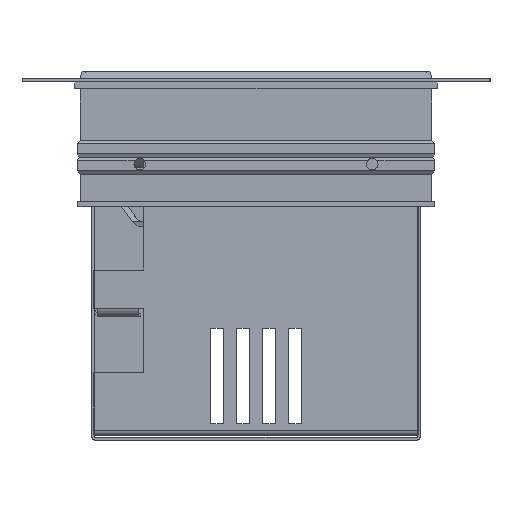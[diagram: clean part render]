
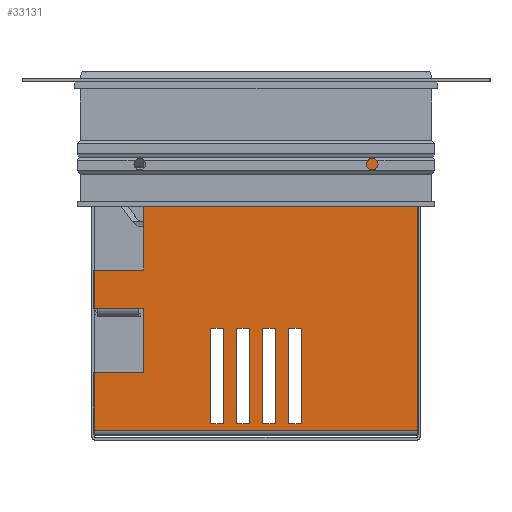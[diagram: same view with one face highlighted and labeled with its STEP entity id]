
A CAD part, left-side view. The second image highlights one B-rep face of the part: STEP entity #33131.
In plain terms, the highlighted planar face has unit normal (-1, 0, 0).
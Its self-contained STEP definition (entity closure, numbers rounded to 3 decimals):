
#370=FACE_BOUND('',#6066,.T.);
#371=FACE_BOUND('',#6067,.T.);
#372=FACE_BOUND('',#6068,.T.);
#373=FACE_BOUND('',#6069,.T.);
#2252=PLANE('',#36460);
#4023=FACE_OUTER_BOUND('',#6065,.T.);
#6065=EDGE_LOOP('',(#30408,#30409,#30410,#30411,#30412,#30413,#30414,#30415,
#30416,#30417,#30418,#30419));
#6066=EDGE_LOOP('',(#30420,#30421,#30422,#30423));
#6067=EDGE_LOOP('',(#30424,#30425,#30426,#30427));
#6068=EDGE_LOOP('',(#30428,#30429,#30430,#30431));
#6069=EDGE_LOOP('',(#30432,#30433,#30434,#30435));
#10133=LINE('',#63001,#12863);
#10135=LINE('',#63007,#12865);
#10136=LINE('',#63009,#12866);
#10137=LINE('',#63011,#12867);
#10138=LINE('',#63013,#12868);
#10139=LINE('',#63015,#12869);
#10140=LINE('',#63017,#12870);
#10141=LINE('',#63019,#12871);
#10142=LINE('',#63021,#12872);
#10143=LINE('',#63023,#12873);
#10144=LINE('',#63025,#12874);
#10145=LINE('',#63026,#12875);
#10146=LINE('',#63029,#12876);
#10147=LINE('',#63031,#12877);
#10148=LINE('',#63033,#12878);
#10149=LINE('',#63034,#12879);
#10150=LINE('',#63037,#12880);
#10151=LINE('',#63039,#12881);
#10152=LINE('',#63041,#12882);
#10153=LINE('',#63042,#12883);
#10154=LINE('',#63045,#12884);
#10155=LINE('',#63047,#12885);
#10156=LINE('',#63049,#12886);
#10157=LINE('',#63050,#12887);
#10158=LINE('',#63053,#12888);
#10159=LINE('',#63055,#12889);
#10160=LINE('',#63057,#12890);
#10161=LINE('',#63058,#12891);
#12863=VECTOR('',#45441,304.8);
#12865=VECTOR('',#45447,304.8);
#12866=VECTOR('',#45448,304.8);
#12867=VECTOR('',#45449,304.8);
#12868=VECTOR('',#45450,304.8);
#12869=VECTOR('',#45451,304.8);
#12870=VECTOR('',#45452,304.8);
#12871=VECTOR('',#45453,304.8);
#12872=VECTOR('',#45454,304.8);
#12873=VECTOR('',#45455,304.8);
#12874=VECTOR('',#45456,304.8);
#12875=VECTOR('',#45457,304.8);
#12876=VECTOR('',#45458,304.8);
#12877=VECTOR('',#45459,304.8);
#12878=VECTOR('',#45460,304.8);
#12879=VECTOR('',#45461,304.8);
#12880=VECTOR('',#45462,304.8);
#12881=VECTOR('',#45463,304.8);
#12882=VECTOR('',#45464,304.8);
#12883=VECTOR('',#45465,304.8);
#12884=VECTOR('',#45466,304.8);
#12885=VECTOR('',#45467,304.8);
#12886=VECTOR('',#45468,304.8);
#12887=VECTOR('',#45469,304.8);
#12888=VECTOR('',#45470,304.8);
#12889=VECTOR('',#45471,304.8);
#12890=VECTOR('',#45472,304.8);
#12891=VECTOR('',#45473,304.8);
#16072=VERTEX_POINT('',#62997);
#16074=VERTEX_POINT('',#63000);
#16076=VERTEX_POINT('',#63006);
#16077=VERTEX_POINT('',#63008);
#16078=VERTEX_POINT('',#63010);
#16079=VERTEX_POINT('',#63012);
#16080=VERTEX_POINT('',#63014);
#16081=VERTEX_POINT('',#63016);
#16082=VERTEX_POINT('',#63018);
#16083=VERTEX_POINT('',#63020);
#16084=VERTEX_POINT('',#63022);
#16085=VERTEX_POINT('',#63024);
#16086=VERTEX_POINT('',#63027);
#16087=VERTEX_POINT('',#63028);
#16088=VERTEX_POINT('',#63030);
#16089=VERTEX_POINT('',#63032);
#16090=VERTEX_POINT('',#63035);
#16091=VERTEX_POINT('',#63036);
#16092=VERTEX_POINT('',#63038);
#16093=VERTEX_POINT('',#63040);
#16094=VERTEX_POINT('',#63043);
#16095=VERTEX_POINT('',#63044);
#16096=VERTEX_POINT('',#63046);
#16097=VERTEX_POINT('',#63048);
#16098=VERTEX_POINT('',#63051);
#16099=VERTEX_POINT('',#63052);
#16100=VERTEX_POINT('',#63054);
#16101=VERTEX_POINT('',#63056);
#20874=EDGE_CURVE('',#16074,#16072,#10133,.T.);
#20877=EDGE_CURVE('',#16076,#16072,#10135,.T.);
#20878=EDGE_CURVE('',#16077,#16076,#10136,.T.);
#20879=EDGE_CURVE('',#16078,#16077,#10137,.T.);
#20880=EDGE_CURVE('',#16079,#16078,#10138,.T.);
#20881=EDGE_CURVE('',#16080,#16079,#10139,.T.);
#20882=EDGE_CURVE('',#16081,#16080,#10140,.T.);
#20883=EDGE_CURVE('',#16082,#16081,#10141,.T.);
#20884=EDGE_CURVE('',#16083,#16082,#10142,.T.);
#20885=EDGE_CURVE('',#16084,#16083,#10143,.T.);
#20886=EDGE_CURVE('',#16085,#16084,#10144,.T.);
#20887=EDGE_CURVE('',#16074,#16085,#10145,.T.);
#20888=EDGE_CURVE('',#16086,#16087,#10146,.T.);
#20889=EDGE_CURVE('',#16088,#16086,#10147,.T.);
#20890=EDGE_CURVE('',#16089,#16088,#10148,.T.);
#20891=EDGE_CURVE('',#16087,#16089,#10149,.T.);
#20892=EDGE_CURVE('',#16090,#16091,#10150,.T.);
#20893=EDGE_CURVE('',#16092,#16090,#10151,.T.);
#20894=EDGE_CURVE('',#16093,#16092,#10152,.T.);
#20895=EDGE_CURVE('',#16091,#16093,#10153,.T.);
#20896=EDGE_CURVE('',#16094,#16095,#10154,.T.);
#20897=EDGE_CURVE('',#16096,#16094,#10155,.T.);
#20898=EDGE_CURVE('',#16097,#16096,#10156,.T.);
#20899=EDGE_CURVE('',#16095,#16097,#10157,.T.);
#20900=EDGE_CURVE('',#16098,#16099,#10158,.T.);
#20901=EDGE_CURVE('',#16100,#16098,#10159,.T.);
#20902=EDGE_CURVE('',#16101,#16100,#10160,.T.);
#20903=EDGE_CURVE('',#16099,#16101,#10161,.T.);
#30408=ORIENTED_EDGE('',*,*,#20877,.F.);
#30409=ORIENTED_EDGE('',*,*,#20878,.F.);
#30410=ORIENTED_EDGE('',*,*,#20879,.F.);
#30411=ORIENTED_EDGE('',*,*,#20880,.F.);
#30412=ORIENTED_EDGE('',*,*,#20881,.F.);
#30413=ORIENTED_EDGE('',*,*,#20882,.F.);
#30414=ORIENTED_EDGE('',*,*,#20883,.F.);
#30415=ORIENTED_EDGE('',*,*,#20884,.F.);
#30416=ORIENTED_EDGE('',*,*,#20885,.F.);
#30417=ORIENTED_EDGE('',*,*,#20886,.F.);
#30418=ORIENTED_EDGE('',*,*,#20887,.F.);
#30419=ORIENTED_EDGE('',*,*,#20874,.T.);
#30420=ORIENTED_EDGE('',*,*,#20888,.F.);
#30421=ORIENTED_EDGE('',*,*,#20889,.F.);
#30422=ORIENTED_EDGE('',*,*,#20890,.F.);
#30423=ORIENTED_EDGE('',*,*,#20891,.F.);
#30424=ORIENTED_EDGE('',*,*,#20892,.F.);
#30425=ORIENTED_EDGE('',*,*,#20893,.F.);
#30426=ORIENTED_EDGE('',*,*,#20894,.F.);
#30427=ORIENTED_EDGE('',*,*,#20895,.F.);
#30428=ORIENTED_EDGE('',*,*,#20896,.F.);
#30429=ORIENTED_EDGE('',*,*,#20897,.F.);
#30430=ORIENTED_EDGE('',*,*,#20898,.F.);
#30431=ORIENTED_EDGE('',*,*,#20899,.F.);
#30432=ORIENTED_EDGE('',*,*,#20900,.F.);
#30433=ORIENTED_EDGE('',*,*,#20901,.F.);
#30434=ORIENTED_EDGE('',*,*,#20902,.F.);
#30435=ORIENTED_EDGE('',*,*,#20903,.F.);
#33131=ADVANCED_FACE('',(#4023,#370,#371,#372,#373),#2252,.T.);
#36460=AXIS2_PLACEMENT_3D('',#63005,#45445,#45446);
#45441=DIRECTION('',(0.,-1.,0.));
#45445=DIRECTION('center_axis',(-1.,0.,0.));
#45446=DIRECTION('ref_axis',(0.,1.,0.));
#45447=DIRECTION('',(0.,0.,-1.));
#45448=DIRECTION('',(0.,-1.,0.));
#45449=DIRECTION('',(0.,0.,1.));
#45450=DIRECTION('',(0.,1.,0.));
#45451=DIRECTION('',(0.,0.,1.));
#45452=DIRECTION('',(0.,-1.,0.));
#45453=DIRECTION('',(0.,0.,1.));
#45454=DIRECTION('',(0.,1.,0.));
#45455=DIRECTION('',(0.,0.,1.));
#45456=DIRECTION('',(0.,-1.,0.));
#45457=DIRECTION('',(0.,0.,1.));
#45458=DIRECTION('',(0.,0.,1.));
#45459=DIRECTION('',(0.,-1.,0.));
#45460=DIRECTION('',(0.,0.,-1.));
#45461=DIRECTION('',(0.,1.,0.));
#45462=DIRECTION('',(0.,0.,1.));
#45463=DIRECTION('',(0.,-1.,0.));
#45464=DIRECTION('',(0.,0.,-1.));
#45465=DIRECTION('',(0.,1.,0.));
#45466=DIRECTION('',(0.,0.,1.));
#45467=DIRECTION('',(0.,-1.,0.));
#45468=DIRECTION('',(0.,0.,-1.));
#45469=DIRECTION('',(0.,1.,0.));
#45470=DIRECTION('',(0.,0.,1.));
#45471=DIRECTION('',(0.,-1.,0.));
#45472=DIRECTION('',(0.,0.,-1.));
#45473=DIRECTION('',(0.,1.,0.));
#62997=CARTESIAN_POINT('',(-103.8,-47.7,-105.555));
#63000=CARTESIAN_POINT('',(-103.8,47.7,-105.555));
#63001=CARTESIAN_POINT('',(-103.8,47.7,-105.555));
#63005=CARTESIAN_POINT('Origin',(-103.8,-47.7,-0.625));
#63006=CARTESIAN_POINT('',(-103.8,-47.7,-0.625));
#63007=CARTESIAN_POINT('',(-103.8,-47.7,-0.625));
#63008=CARTESIAN_POINT('',(-103.8,47.7,-0.625));
#63009=CARTESIAN_POINT('',(-103.8,47.7,-0.625));
#63010=CARTESIAN_POINT('',(-103.8,47.7,-17.467));
#63011=CARTESIAN_POINT('',(-103.8,47.7,-17.467));
#63012=CARTESIAN_POINT('',(-103.8,32.8,-17.467));
#63013=CARTESIAN_POINT('',(-103.8,32.8,-17.467));
#63014=CARTESIAN_POINT('',(-103.8,32.8,-58.625));
#63015=CARTESIAN_POINT('',(-103.8,32.8,-58.625));
#63016=CARTESIAN_POINT('',(-103.8,47.7,-58.625));
#63017=CARTESIAN_POINT('',(-103.8,47.7,-58.625));
#63018=CARTESIAN_POINT('',(-103.8,47.7,-69.882));
#63019=CARTESIAN_POINT('',(-103.8,47.7,-69.882));
#63020=CARTESIAN_POINT('',(-103.8,32.8,-69.882));
#63021=CARTESIAN_POINT('',(-103.8,32.8,-69.882));
#63022=CARTESIAN_POINT('',(-103.8,32.8,-88.625));
#63023=CARTESIAN_POINT('',(-103.8,32.8,-88.625));
#63024=CARTESIAN_POINT('',(-103.8,47.7,-88.625));
#63025=CARTESIAN_POINT('',(-103.8,47.7,-88.625));
#63026=CARTESIAN_POINT('',(-103.8,47.7,-105.555));
#63027=CARTESIAN_POINT('',(-103.8,9.5,-103.638));
#63028=CARTESIAN_POINT('',(-103.8,9.5,-75.638));
#63029=CARTESIAN_POINT('',(-103.8,9.5,-103.638));
#63030=CARTESIAN_POINT('',(-103.8,13.3,-103.638));
#63031=CARTESIAN_POINT('',(-103.8,13.3,-103.638));
#63032=CARTESIAN_POINT('',(-103.8,13.3,-75.638));
#63033=CARTESIAN_POINT('',(-103.8,13.3,-75.638));
#63034=CARTESIAN_POINT('',(-103.8,9.5,-75.638));
#63035=CARTESIAN_POINT('',(-103.8,1.9,-103.638));
#63036=CARTESIAN_POINT('',(-103.8,1.9,-75.638));
#63037=CARTESIAN_POINT('',(-103.8,1.9,-103.638));
#63038=CARTESIAN_POINT('',(-103.8,5.7,-103.638));
#63039=CARTESIAN_POINT('',(-103.8,5.7,-103.638));
#63040=CARTESIAN_POINT('',(-103.8,5.7,-75.638));
#63041=CARTESIAN_POINT('',(-103.8,5.7,-75.638));
#63042=CARTESIAN_POINT('',(-103.8,1.9,-75.638));
#63043=CARTESIAN_POINT('',(-103.8,-5.7,-103.638));
#63044=CARTESIAN_POINT('',(-103.8,-5.7,-75.638));
#63045=CARTESIAN_POINT('',(-103.8,-5.7,-103.638));
#63046=CARTESIAN_POINT('',(-103.8,-1.9,-103.638));
#63047=CARTESIAN_POINT('',(-103.8,-1.9,-103.638));
#63048=CARTESIAN_POINT('',(-103.8,-1.9,-75.638));
#63049=CARTESIAN_POINT('',(-103.8,-1.9,-75.638));
#63050=CARTESIAN_POINT('',(-103.8,-5.7,-75.638));
#63051=CARTESIAN_POINT('',(-103.8,-13.3,-103.638));
#63052=CARTESIAN_POINT('',(-103.8,-13.3,-75.638));
#63053=CARTESIAN_POINT('',(-103.8,-13.3,-103.638));
#63054=CARTESIAN_POINT('',(-103.8,-9.5,-103.638));
#63055=CARTESIAN_POINT('',(-103.8,-9.5,-103.638));
#63056=CARTESIAN_POINT('',(-103.8,-9.5,-75.638));
#63057=CARTESIAN_POINT('',(-103.8,-9.5,-75.638));
#63058=CARTESIAN_POINT('',(-103.8,-13.3,-75.638));
